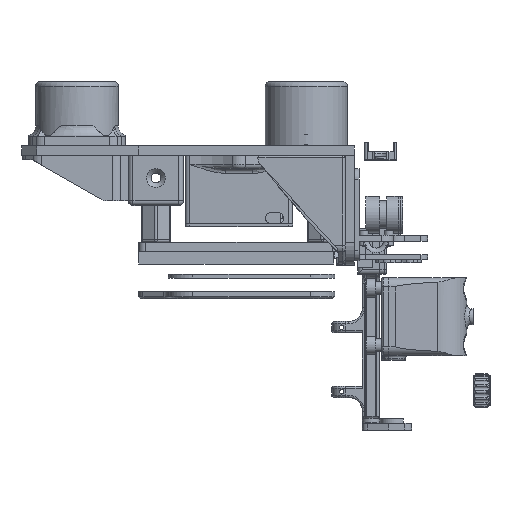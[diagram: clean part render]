
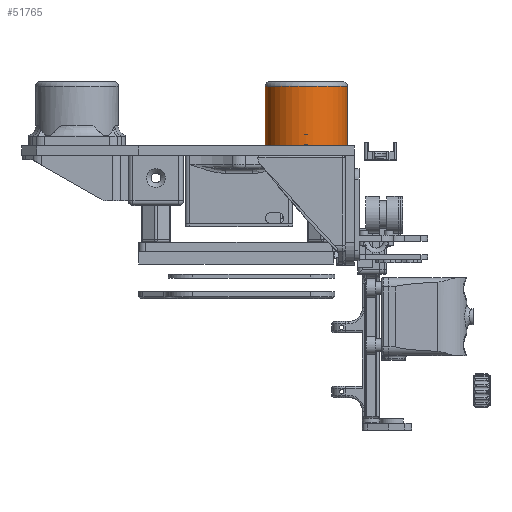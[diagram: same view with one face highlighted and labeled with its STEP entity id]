
A CAD part, front view. The second image highlights one B-rep face of the part: STEP entity #51765.
In plain terms, the highlighted cylindrical face has radius 18 mm (diameter 36 mm), a partial arc.
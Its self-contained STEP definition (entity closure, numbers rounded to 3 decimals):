
#1039=CYLINDRICAL_SURFACE('',#54943,18.);
#4952=FACE_OUTER_BOUND('',#8014,.T.);
#8014=EDGE_LOOP('',(#36733,#36734,#36735,#36736));
#11581=LINE('',#102208,#15714);
#11606=LINE('',#102342,#15739);
#15714=VECTOR('',#60962,10.);
#15739=VECTOR('',#61071,10.);
#19797=CIRCLE('',#54921,18.);
#19811=CIRCLE('',#54941,18.);
#22746=VERTEX_POINT('',#102205);
#22747=VERTEX_POINT('',#102207);
#22765=VERTEX_POINT('',#102267);
#22782=VERTEX_POINT('',#102336);
#28041=EDGE_CURVE('',#22746,#22747,#11581,.T.);
#28067=EDGE_CURVE('',#22746,#22765,#19797,.T.);
#28092=EDGE_CURVE('',#22747,#22782,#19811,.T.);
#28094=EDGE_CURVE('',#22765,#22782,#11606,.T.);
#36733=ORIENTED_EDGE('',*,*,#28092,.F.);
#36734=ORIENTED_EDGE('',*,*,#28041,.F.);
#36735=ORIENTED_EDGE('',*,*,#28067,.T.);
#36736=ORIENTED_EDGE('',*,*,#28094,.T.);
#51765=ADVANCED_FACE('',(#4952),#1039,.T.);
#54921=AXIS2_PLACEMENT_3D('',#102269,#61014,#61015);
#54941=AXIS2_PLACEMENT_3D('',#102338,#61064,#61065);
#54943=AXIS2_PLACEMENT_3D('',#102341,#61069,#61070);
#60962=DIRECTION('',(0.,0.,1.));
#61014=DIRECTION('center_axis',(0.,0.,1.));
#61015=DIRECTION('ref_axis',(-1.,0.,0.));
#61064=DIRECTION('center_axis',(0.,0.,1.));
#61065=DIRECTION('ref_axis',(0.,-1.,0.));
#61069=DIRECTION('center_axis',(0.,0.,1.));
#61070=DIRECTION('ref_axis',(-1.,0.,0.));
#61071=DIRECTION('',(0.,0.,1.));
#102205=CARTESIAN_POINT('',(473.959,-71.679,-6.));
#102207=CARTESIAN_POINT('',(473.959,-71.679,20.));
#102208=CARTESIAN_POINT('',(473.959,-71.679,18.));
#102267=CARTESIAN_POINT('',(509.959,-71.679,-6.));
#102269=CARTESIAN_POINT('Origin',(491.959,-71.679,-6.));
#102336=CARTESIAN_POINT('',(509.959,-71.679,20.));
#102338=CARTESIAN_POINT('Origin',(491.959,-71.679,20.));
#102341=CARTESIAN_POINT('Origin',(491.959,-71.679,18.));
#102342=CARTESIAN_POINT('',(509.959,-71.679,18.));
